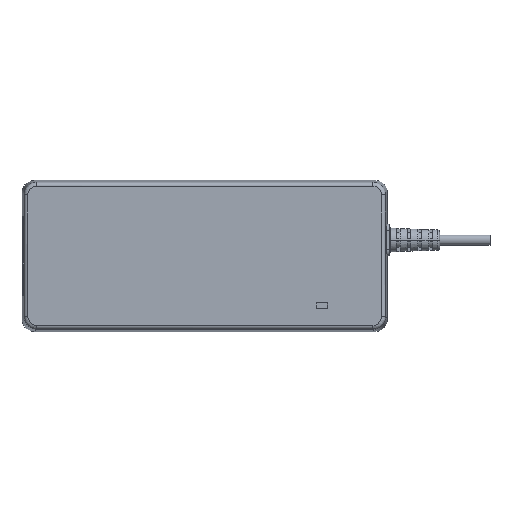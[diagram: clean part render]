
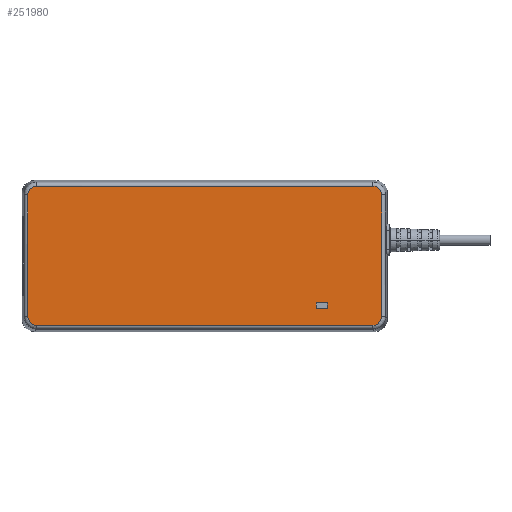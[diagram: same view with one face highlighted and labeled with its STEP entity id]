
A CAD part, top view. The second image highlights one B-rep face of the part: STEP entity #251980.
In plain terms, the highlighted planar face has unit normal (0, 0, 1).
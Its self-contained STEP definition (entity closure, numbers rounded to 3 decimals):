
#217530=CARTESIAN_POINT('',(105.576,32.207,20.));
#217540=VERTEX_POINT('',#217530);
#217590=CARTESIAN_POINT('',(105.586,79.172,20.));
#217600=DIRECTION('',(0.,-1.,0.));
#217610=VECTOR('',#217600,1.);
#217620=LINE('',#217590,#217610);
#217630=CARTESIAN_POINT('',(105.576,29.884,20.));
#217640=VERTEX_POINT('',#217630);
#217650=EDGE_CURVE('',#217540,#217640,#217620,.T.);
#219340=CARTESIAN_POINT('',(101.073,32.207,20.));
#219350=VERTEX_POINT('',#219340);
#219380=CARTESIAN_POINT('',(-13.961,32.207,20.));
#219390=DIRECTION('',(1.,0.,0.));
#219400=VECTOR('',#219390,1.);
#219410=LINE('',#219380,#219400);
#219420=EDGE_CURVE('',#219350,#217540,#219410,.T.);
#225480=CARTESIAN_POINT('',(-9.898,23.187,20.));
#225490=VERTEX_POINT('',#225480);
#225720=CARTESIAN_POINT('',(-13.392,26.682,20.));
#225730=VERTEX_POINT('',#225720);
#225760=CARTESIAN_POINT('',(-9.898,23.187,20.));
#225770=CARTESIAN_POINT('',(-10.813,23.187,20.));
#225780=CARTESIAN_POINT('',(-11.695,23.52,
20.));
#225790=CARTESIAN_POINT('',(-12.468,24.111,
20.));
#225800=CARTESIAN_POINT('',(-13.059,24.885,
20.));
#225810=CARTESIAN_POINT('',(-13.392,25.767,20.));
#225820=CARTESIAN_POINT('',(-13.392,26.682,20.));
#225830=B_SPLINE_CURVE_WITH_KNOTS('',6,(#225760,#225770,#225780,#225790,
#225800,#225810,#225820),.UNSPECIFIED.,.F.,.F.,(7,7),(0.,1.),
.UNSPECIFIED.);
#225840=EDGE_CURVE('',#225490,#225730,#225830,.T.);
#242390=CARTESIAN_POINT('',(101.073,29.884,20.));
#242400=VERTEX_POINT('',#242390);
#242450=CARTESIAN_POINT('',(101.063,79.172,20.));
#242460=DIRECTION('',(0.,1.,0.));
#242470=VECTOR('',#242460,1.);
#242480=LINE('',#242450,#242470);
#242490=EDGE_CURVE('',#242400,#219350,#242480,.T.);
#249130=CARTESIAN_POINT('',(-13.961,29.884,20.));
#249140=DIRECTION('',(-1.,0.,0.));
#249150=VECTOR('',#249140,1.);
#249160=LINE('',#249130,#249150);
#249170=EDGE_CURVE('',#217640,#242400,#249160,.T.);
#251180=CARTESIAN_POINT('',(75.266,31.841,20.));
#251190=DIRECTION('',(0.,0.,1.));
#251200=DIRECTION('',(1.,0.,0.));
#251210=AXIS2_PLACEMENT_3D('',#251180,#251190,#251200);
#251220=PLANE('',#251210);
#251230=ORIENTED_EDGE('',*,*,#242490,.T.);
#251240=ORIENTED_EDGE('',*,*,#249170,.T.);
#251250=ORIENTED_EDGE('',*,*,#217650,.T.);
#251260=ORIENTED_EDGE('',*,*,#219420,.T.);
#251270=EDGE_LOOP('',(#251260,#251250,#251240,#251230));
#251280=FACE_BOUND('',#251270,.T.);
#251290=CARTESIAN_POINT('',(-13.392,79.172,20.));
#251300=DIRECTION('',(0.,-1.,0.));
#251310=VECTOR('',#251300,1.);
#251320=LINE('',#251290,#251310);
#251330=CARTESIAN_POINT('',(-13.392,74.978,20.));
#251340=VERTEX_POINT('',#251330);
#251350=EDGE_CURVE('',#251340,#225730,#251320,.T.);
#251360=ORIENTED_EDGE('',*,*,#251350,.T.);
#251370=CARTESIAN_POINT('',(-13.392,74.978,20.));
#251380=CARTESIAN_POINT('',(-13.392,75.893,20.));
#251390=CARTESIAN_POINT('',(-13.059,76.775,
20.));
#251400=CARTESIAN_POINT('',(-12.468,77.549,
20.));
#251410=CARTESIAN_POINT('',(-11.694,78.14,
20.));
#251420=CARTESIAN_POINT('',(-10.812,78.473,20.));
#251430=CARTESIAN_POINT('',(-9.897,78.473,20.));
#251440=B_SPLINE_CURVE_WITH_KNOTS('',6,(#251370,#251380,#251390,#251400,
#251410,#251420,#251430),.UNSPECIFIED.,.F.,.F.,(7,7),(0.,1.),
.UNSPECIFIED.);
#251450=CARTESIAN_POINT('',(-9.897,78.473,20.));
#251460=VERTEX_POINT('',#251450);
#251470=EDGE_CURVE('',#251340,#251460,#251440,.T.);
#251480=ORIENTED_EDGE('',*,*,#251470,.F.);
#251490=CARTESIAN_POINT('',(-13.961,78.473,20.));
#251500=DIRECTION('',(-1.,0.,0.));
#251510=VECTOR('',#251500,1.);
#251520=LINE('',#251490,#251510);
#251530=CARTESIAN_POINT('',(123.537,78.473,20.));
#251540=VERTEX_POINT('',#251530);
#251550=EDGE_CURVE('',#251540,#251460,#251520,.T.);
#251560=ORIENTED_EDGE('',*,*,#251550,.T.);
#251570=CARTESIAN_POINT('',(123.537,78.473,20.));
#251580=CARTESIAN_POINT('',(124.452,78.473,20.));
#251590=CARTESIAN_POINT('',(125.334,78.14,
20.));
#251600=CARTESIAN_POINT('',(126.108,77.549,
20.));
#251610=CARTESIAN_POINT('',(126.699,76.775,
20.));
#251620=CARTESIAN_POINT('',(127.032,75.893,20.));
#251630=CARTESIAN_POINT('',(127.032,74.978,20.));
#251640=B_SPLINE_CURVE_WITH_KNOTS('',6,(#251570,#251580,#251590,#251600,
#251610,#251620,#251630),.UNSPECIFIED.,.F.,.F.,(7,7),(0.,1.),
.UNSPECIFIED.);
#251650=CARTESIAN_POINT('',(127.032,74.978,20.));
#251660=VERTEX_POINT('',#251650);
#251670=EDGE_CURVE('',#251540,#251660,#251640,.T.);
#251680=ORIENTED_EDGE('',*,*,#251670,.F.);
#251690=CARTESIAN_POINT('',(127.032,79.172,20.));
#251700=DIRECTION('',(0.,1.,0.));
#251710=VECTOR('',#251700,1.);
#251720=LINE('',#251690,#251710);
#251730=CARTESIAN_POINT('',(127.032,26.682,20.));
#251740=VERTEX_POINT('',#251730);
#251750=EDGE_CURVE('',#251740,#251660,#251720,.T.);
#251760=ORIENTED_EDGE('',*,*,#251750,.T.);
#251770=CARTESIAN_POINT('',(127.032,26.682,20.));
#251780=CARTESIAN_POINT('',(127.032,25.767,20.));
#251790=CARTESIAN_POINT('',(126.699,24.885,
20.));
#251800=CARTESIAN_POINT('',(126.108,24.111,
20.));
#251810=CARTESIAN_POINT('',(125.335,23.52,
20.));
#251820=CARTESIAN_POINT('',(124.453,23.187,20.));
#251830=CARTESIAN_POINT('',(123.538,23.187,20.));
#251840=B_SPLINE_CURVE_WITH_KNOTS('',6,(#251770,#251780,#251790,#251800,
#251810,#251820,#251830),.UNSPECIFIED.,.F.,.F.,(7,7),(0.,1.),
.UNSPECIFIED.);
#251850=CARTESIAN_POINT('',(123.538,23.187,20.));
#251860=VERTEX_POINT('',#251850);
#251870=EDGE_CURVE('',#251740,#251860,#251840,.T.);
#251880=ORIENTED_EDGE('',*,*,#251870,.F.);
#251890=CARTESIAN_POINT('',(-13.961,23.187,20.));
#251900=DIRECTION('',(1.,0.,0.));
#251910=VECTOR('',#251900,1.);
#251920=LINE('',#251890,#251910);
#251930=EDGE_CURVE('',#225490,#251860,#251920,.T.);
#251940=ORIENTED_EDGE('',*,*,#251930,.T.);
#251950=ORIENTED_EDGE('',*,*,#225840,.F.);
#251960=EDGE_LOOP('',(#251950,#251940,#251880,#251760,#251680,#251560,
#251480,#251360));
#251970=FACE_OUTER_BOUND('',#251960,.T.);
#251980=ADVANCED_FACE('',(#251280,#251970),#251220,.T.);
